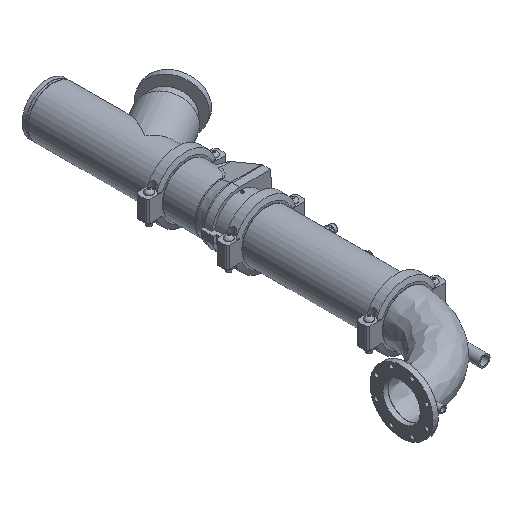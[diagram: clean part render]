
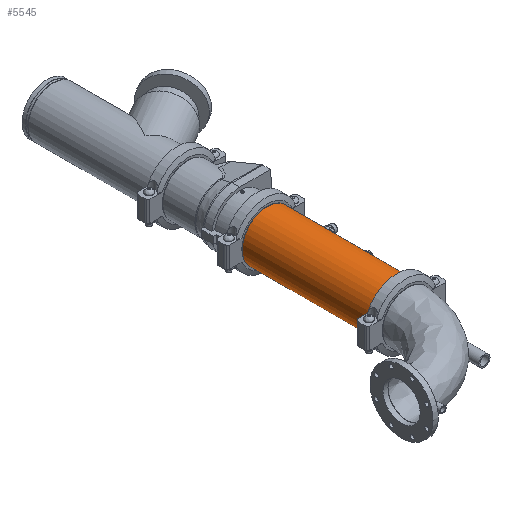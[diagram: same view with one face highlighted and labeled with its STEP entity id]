
A CAD part, isometric view. The second image highlights one B-rep face of the part: STEP entity #5545.
In plain terms, the highlighted cylindrical face has radius 136.525 mm (diameter 273.05 mm), a full revolution.
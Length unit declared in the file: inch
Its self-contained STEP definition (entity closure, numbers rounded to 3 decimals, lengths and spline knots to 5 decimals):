
#155=LINE('',#8448,#548);
#548=VECTOR('',#6731,5.375);
#941=CYLINDRICAL_SURFACE('',#6046,5.375);
#1129=FACE_OUTER_BOUND('',#1442,.T.);
#1442=EDGE_LOOP('',(#3491,#3492,#3493,#3494,#3495,#3496));
#1835=CIRCLE('',#6044,5.375);
#1836=CIRCLE('',#6045,5.375);
#1837=CIRCLE('',#6047,5.375);
#1838=CIRCLE('',#6048,5.375);
#2163=VERTEX_POINT('',#8439);
#2164=VERTEX_POINT('',#8440);
#2165=VERTEX_POINT('',#8444);
#2166=VERTEX_POINT('',#8445);
#2702=EDGE_CURVE('',#2163,#2164,#1835,.T.);
#2703=EDGE_CURVE('',#2164,#2163,#1836,.T.);
#2704=EDGE_CURVE('',#2165,#2166,#1837,.T.);
#2705=EDGE_CURVE('',#2166,#2165,#1838,.T.);
#2706=EDGE_CURVE('',#2166,#2164,#155,.T.);
#3491=ORIENTED_EDGE('',*,*,#2704,.F.);
#3492=ORIENTED_EDGE('',*,*,#2705,.F.);
#3493=ORIENTED_EDGE('',*,*,#2706,.T.);
#3494=ORIENTED_EDGE('',*,*,#2703,.T.);
#3495=ORIENTED_EDGE('',*,*,#2702,.T.);
#3496=ORIENTED_EDGE('',*,*,#2706,.F.);
#5545=ADVANCED_FACE('',(#1129),#941,.T.);
#6044=AXIS2_PLACEMENT_3D('',#8441,#6721,#6722);
#6045=AXIS2_PLACEMENT_3D('',#8442,#6723,#6724);
#6046=AXIS2_PLACEMENT_3D('',#8443,#6725,#6726);
#6047=AXIS2_PLACEMENT_3D('',#8446,#6727,#6728);
#6048=AXIS2_PLACEMENT_3D('',#8447,#6729,#6730);
#6721=DIRECTION('center_axis',(1.,0.,0.));
#6722=DIRECTION('ref_axis',(0.,0.,-1.));
#6723=DIRECTION('center_axis',(1.,0.,0.));
#6724=DIRECTION('ref_axis',(0.,0.,-1.));
#6725=DIRECTION('center_axis',(1.,0.,0.));
#6726=DIRECTION('ref_axis',(0.,1.,0.));
#6727=DIRECTION('center_axis',(1.,0.,0.));
#6728=DIRECTION('ref_axis',(0.,0.,-1.));
#6729=DIRECTION('center_axis',(1.,0.,0.));
#6730=DIRECTION('ref_axis',(0.,0.,-1.));
#6731=DIRECTION('',(-1.,0.,0.));
#8439=CARTESIAN_POINT('',(-13.77725,5.375,0.));
#8440=CARTESIAN_POINT('',(-13.77725,-5.375,0.));
#8441=CARTESIAN_POINT('Origin',(-13.77725,0.,0.));
#8442=CARTESIAN_POINT('Origin',(-13.77725,0.,0.));
#8443=CARTESIAN_POINT('Origin',(0.,0.,0.));
#8444=CARTESIAN_POINT('',(13.77725,5.375,0.));
#8445=CARTESIAN_POINT('',(13.77725,-5.375,0.));
#8446=CARTESIAN_POINT('Origin',(13.77725,0.,0.));
#8447=CARTESIAN_POINT('Origin',(13.77725,0.,0.));
#8448=CARTESIAN_POINT('',(0.,-5.375,0.));
